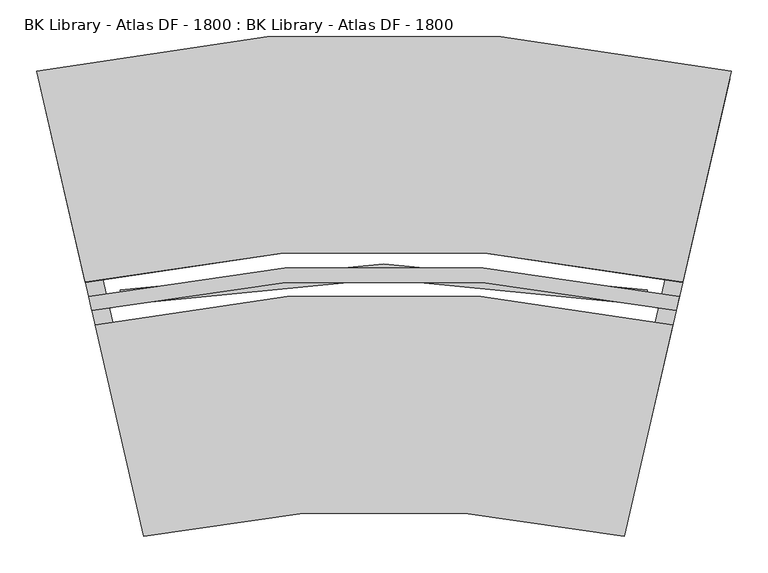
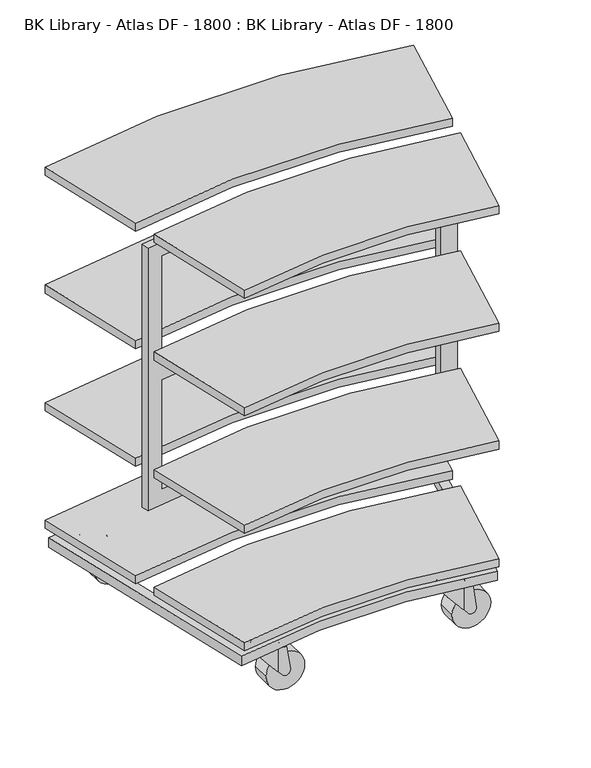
"""IFC4 building model written with IfcOpenShell, lengths in millimetres: furniture geometry, BK Library - Atlas DF - 1800 : BK Library - Atlas DF - 1800."""

from ifc_helpers import new_model, si_unit, point, frame, frame_2d, origin, place, context, project, spatial, polyline, circle_curve, ellipse_curve, trimmed, segment, composite_curve, outline, extrude, source, transform, mapped, element, save
from ifc_brep_helpers import plane_surface, cylinder_surface, revolved_surface, advanced_brep


def bk_library_atlas_df_1800_bk_library_atlas_df_1800_94cf6b04(model_context):
    return source(origin(), model_context, "Body", "SolidModel", [
        advanced_brep(
        [(-272.2019507, -254.1984705, 121.6226045), (-207.2197258, -254.1984705, 121.6226045), (-207.2197258, -254.1984705, 116.3900038), (-219.4802832, -228.7741311, 116.3900038), (-219.4802832, -228.7741311, 54.5515736), (-269.4995427, -241.2252106, 113.1446696), (-272.2019507, -254.1984705, 113.1446696), (-207.2197258, -254.1984705, 113.8999998), (-207.2197258, -254.1984705, 44.4908375), (-210.891719, -239.1941127, 44.4908375), (-216.827675, -231.132625, 51.4442799), (-216.827675, -231.132625, 113.8999998), (-216.921762, -277.3572785, 113.8999998), (-216.921762, -277.3572785, 51.5544945), (-210.891719, -269.2028283, 44.4908375), (-269.4995427, -267.1717304, 113.1446696), (-219.5976662, -279.7157724, 54.6890773), (-219.5976662, -279.7157724, 116.3900038), (-210.891719, -254.1984705, 44.4908375), (-214.2197258, -254.1984705, 128.6226045), (-265.2019507, -254.1984705, 128.6226045), (-239.7108382, -254.1984705, 128.6226045), (-208.6289168, -279.7157724, 41.8401668), (-188.2600466, -279.7157724, 51.0748876), (-197.7770665, -279.7157724, 116.3900038), (-197.7770665, -228.7741311, 116.3900038), (-188.2600466, -228.7741311, 51.0748876), (-208.6289168, -228.7741311, 41.8401668), (-208.6289168, -277.3572785, 41.8401668), (-208.6289168, -231.132625, 41.8401668), (-188.2600466, -277.3572785, 51.0748876), (-188.2600466, -231.132625, 51.0748876), (-197.4142497, -277.3572785, 113.8999998), (-197.4142497, -231.132625, 113.8999998)],
        [
            (0, 1, circle_curve(frame((-239.7108382, -254.1984705, 121.6226045), z_axis=(0.0, 0.0, -1.0), x_axis=(-1.0, 0.0, 0.0)), 32.4911124)),
            (1, 2),
            (2, 3, circle_curve(frame((-239.7108382, -254.1984705, 116.3900038), z_axis=(0.0, 0.0, 1.0), x_axis=(-1.0, 0.0, 0.0)), 32.4911124)),
            (3, 4),
            (4, 5, ellipse_curve(frame((-239.7108382, -254.1984705, 78.2498623), z_axis=(0.7605596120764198, 0.0, 0.6492681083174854), x_axis=(0.6492681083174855, 0.0, -0.7605596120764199)), 50.0426742, 32.4911124)),
            (5, 6, circle_curve(frame((-239.7108382, -254.1984705, 113.1446696), z_axis=(0.0, 0.0, 1.0), x_axis=(-1.0, 0.0, 0.0)), 32.4911124)),
            (6, 0),
            (7, 8),
            (8, 9, circle_curve(frame((-239.7108382, -254.1984705, 44.4908375), z_axis=(0.0, 0.0, 1.0), x_axis=(-1.0, 0.0, 0.0)), 32.4911124)),
            (9, 10, ellipse_curve(frame((-239.7108382, -254.1984705, 78.2498623), z_axis=(0.7605596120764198, 0.0, 0.6492681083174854), x_axis=(0.6492681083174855, 0.0, -0.7605596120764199)), 50.0426742, 32.4911124)),
            (10, 11),
            (11, 7, circle_curve(frame((-239.7108382, -254.1984705, 113.8999998), z_axis=(0.0, 0.0, -1.0), x_axis=(-1.0, 0.0, 0.0)), 32.4911124)),
            (7, 12, circle_curve(frame((-239.7108382, -254.1984705, 113.8999998), z_axis=(0.0, 0.0, -1.0), x_axis=(-1.0, 0.0, 0.0)), 32.4911124)),
            (12, 13),
            (13, 14, ellipse_curve(frame((-239.7108382, -254.1984705, 78.2498623), z_axis=(0.7605596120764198, 0.0, 0.6492681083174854), x_axis=(0.6492681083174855, 0.0, -0.7605596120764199)), 50.0426742, 32.4911124)),
            (14, 8, circle_curve(frame((-239.7108382, -254.1984705, 44.4908375), z_axis=(0.0, 0.0, 1.0), x_axis=(-1.0, 0.0, 0.0)), 32.4911124)),
            (1, 0, circle_curve(frame((-239.7108382, -254.1984705, 121.6226045), z_axis=(0.0, 0.0, -1.0), x_axis=(-1.0, 0.0, 0.0)), 32.4911124)),
            (6, 15, circle_curve(frame((-239.7108382, -254.1984705, 113.1446696), z_axis=(0.0, 0.0, 1.0), x_axis=(-1.0, 0.0, 0.0)), 32.4911124)),
            (15, 16, ellipse_curve(frame((-239.7108382, -254.1984705, 78.2498623), z_axis=(0.7605596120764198, 0.0, 0.6492681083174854), x_axis=(0.6492681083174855, 0.0, -0.7605596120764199)), 50.0426742, 32.4911124)),
            (16, 17),
            (17, 2, circle_curve(frame((-239.7108382, -254.1984705, 116.3900038), z_axis=(0.0, 0.0, 1.0), x_axis=(-1.0, 0.0, 0.0)), 32.4911124)),
            (8, 18),
            (18, 9),
            (14, 18),
            (19, 20, circle_curve(frame((-239.7108382, -254.1984705, 128.6226045), z_axis=(0.0, 0.0, 1.0), x_axis=(-1.0, 0.0, 0.0)), 25.4911124)),
            (20, 21),
            (21, 19),
            (20, 19, circle_curve(frame((-239.7108382, -254.1984705, 128.6226045), z_axis=(0.0, 0.0, 1.0), x_axis=(-1.0, 0.0, 0.0)), 25.4911124)),
            (0, 20, circle_curve(frame((-265.2019507, -254.1984705, 121.6226045), z_axis=(0.0, 1.0, 0.0), x_axis=(1.0, 0.0, 0.0)), 7.0)),
            (19, 1, circle_curve(frame((-214.2197258, -254.1984705, 121.6226045), z_axis=(0.0, 1.0, 0.0), x_axis=(-1.0, 0.0, 0.0)), 7.0)),
            (5, 15),
            (22, 23, circle_curve(frame((-199.7770509, -279.7157724, 49.3967529), z_axis=(0.0, -1.0, 0.0), x_axis=(1.0, 0.0, 0.0)), 11.6386221)),
            (23, 24),
            (24, 17),
            (16, 22),
            (25, 26),
            (26, 27, circle_curve(frame((-199.7770509, -228.7741311, 49.3967529), z_axis=(0.0, 1.0, 0.0), x_axis=(1.0, 0.0, 0.0)), 11.6386221)),
            (27, 4),
            (3, 25),
            (24, 25),
            (28, 22),
            (27, 29),
            (29, 10),
            (13, 28),
            (28, 30, circle_curve(frame((-199.7770509, -277.3572785, 49.3967529), z_axis=(0.0, -1.0, 0.0), x_axis=(1.0, 0.0, 0.0)), 11.6386221)),
            (30, 23),
            (26, 31),
            (31, 29, circle_curve(frame((-199.7770509, -231.132625, 49.3967529), z_axis=(0.0, 1.0, 0.0), x_axis=(1.0, 0.0, 0.0)), 11.6386221)),
            (30, 32),
            (32, 33),
            (33, 31),
            (12, 32),
            (11, 33),
        ],
        [
            cylinder_surface(frame((-239.7108382, -254.1984705, 133.8335618), z_axis=(0.0, 0.0, -1.0), x_axis=(-1.0, 0.0, 0.0)), 32.4911124),
            plane_surface(frame((-239.7108382, -254.1984705, 44.4908375), z_axis=(0.0, 0.0, -1.0), x_axis=(-1.0, 0.0, 0.0))),
            plane_surface(frame((-239.7108382, -254.1984705, 128.6226045), z_axis=(0.0, 0.0, 1.0), x_axis=(-1.0, 0.0, 0.0))),
            revolved_surface(trimmed(ellipse_curve(frame((-265.2019507, -254.1984705, 121.6226045), z_axis=(0.0, -1.0, 0.0), x_axis=(1.0, 0.0, 0.0)), 7.0, 7.0), [point((-265.2019507, -254.1984705, 128.6226045))], [point((-272.2019507, -254.1984705, 121.6226045))], True, "CARTESIAN"), (-239.7108382, -254.1984705, 133.8335618), (0.0, 0.0, -1.0)),
            plane_surface(frame((-269.4995427, -336.7007141, 113.1446696), z_axis=(0.0, 0.0, -1.0), x_axis=(0.0, 1.0, 0.0))),
            plane_surface(frame((-197.7770665, -279.7157724, 116.3900038), z_axis=(0.0, -1.0, 0.0), x_axis=(-1.0, 0.0, 0.0))),
            plane_surface(frame((-197.7770665, -228.7741311, 116.3900038), z_axis=(0.0, 1.0, 0.0), x_axis=(1.0, 0.0, 0.0))),
            plane_surface(frame((-197.7770665, -279.7157724, 116.3900038), z_axis=(0.0, 0.0, 1.0), x_axis=(0.0, 1.0, 0.0))),
            plane_surface(frame((-242.7770665, -279.7157724, 81.8416749), z_axis=(-0.7605596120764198, 0.0, -0.6492681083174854), x_axis=(0.0, 1.0, 0.0))),
            cylinder_surface(frame((-199.7770509, -228.7741311, 49.3967529), z_axis=(0.0, -1.0, 0.0), x_axis=(1.0, 0.0, 0.0)), 11.6386221),
            plane_surface(frame((-188.2600466, -279.7157724, 51.0748876), z_axis=(0.9895505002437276, 0.0, 0.14418671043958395), x_axis=(0.0, 1.0, 0.0))),
            plane_surface(frame((-174.1827597, -277.3572785, 113.8999998), z_axis=(0.0, 1.0, 0.0), x_axis=(-1.0, 0.0, 0.0))),
            plane_surface(frame((-174.1827597, -231.132625, 113.8999998), z_axis=(0.0, 0.0, -1.0), x_axis=(-1.0, 0.0, 0.0))),
            plane_surface(frame((-174.1827597, -231.132625, 11.6999998), z_axis=(0.0, -1.0, 0.0), x_axis=(-1.0, 0.0, 0.0))),
        ],
        [
            (0, [[1, 2, 3, 4, 5, 6, 7]]),
            (0, [[8, 9, 10, 11, 12]]),
            (0, [[-8, 13, 14, 15, 16]]),
            (0, [[17, -7, 18, 19, 20, 21, -2]]),
            (1, [[-9, 22, 23]]),
            (1, [[-22, -16, 24]]),
            (2, [[25, 26, 27]]),
            (2, [[-26, 28, -27]]),
            (3, [[-1, 29, -25, 30]]),
            (3, [[-17, -30, -28, -29]]),
            (4, [[31, -18, -6]]),
            (5, [[32, 33, 34, -20, 35]]),
            (6, [[36, 37, 38, -4, 39]]),
            (7, [[40, -39, -3, -21, -34]]),
            (8, [[41, -35, -19, -31, -5, -38, 42, 43, -10, -23, -24, -15, 44]]),
            (9, [[-32, -41, 45, 46]]),
            (9, [[-37, 47, 48, -42]]),
            (10, [[-33, -46, 49, 50, 51, -47, -36, -40]]),
            (11, [[-45, -44, -14, 52, -49]]),
            (12, [[-50, -52, -13, -12, 53]]),
            (13, [[-48, -51, -53, -11, -43]]),
        ],
    ),
        extrude(outline(composite_curve([segment(trimmed(circle_curve(frame_2d((-239.7108382, -254.2293883)), 10.0), [point((-249.7108382, -254.2293883))], [point((-229.7108382, -254.2293883))], False, "CARTESIAN"), True, "CONTINUOUS"), segment(trimmed(circle_curve(frame_2d((-239.7108382, -254.2293883)), 10.0), [point((-229.7108382, -254.2293883))], [point((-249.7108382, -254.2293883))], False, "CARTESIAN"), True, "CONTINUOUS")], self_intersect=False)), frame((0.0, 0.0, 126.1999998), z_axis=(0.0, 0.0, 1.0), x_axis=(1.0, 0.0, 0.0)), (0.0, 0.0, 1.0), 24.8998986),
        extrude(outline(composite_curve([segment(trimmed(circle_curve(frame_2d((49.3999998, -199.6952762)), 50.0), [point((49.3999998, -249.6952762))], [point((49.3999998, -149.6952762))], False, "CARTESIAN"), True, "CONTINUOUS"), segment(trimmed(circle_curve(frame_2d((49.3999998, -199.6952762)), 50.0), [point((49.3999998, -149.6952762))], [point((49.3999998, -249.6952762))], False, "CARTESIAN"), True, "CONTINUOUS")], self_intersect=False)), frame((0.0, -277.3572785, 0.0), z_axis=(0.0, 1.0, 0.0), x_axis=(0.0, 0.0, 1.0)), (0.0, 0.0, 1.0), 46.2857127),
        advanced_brep(
        [(209.7505812, -241.350678, 113.1446696), (209.7505812, -267.2971978, 113.1446696), (207.0481733, -254.3239379, 113.1446696), (270.6212072, -279.8412398, 41.8401668), (290.9900774, -279.8412398, 51.0748876), (281.4730575, -279.8412398, 116.3900038), (259.6524577, -279.8412398, 116.3900038), (259.6524577, -279.8412398, 54.6890773), (281.4730575, -228.8995985, 116.3900038), (290.9900774, -228.8995985, 51.0748876), (270.6212072, -228.8995985, 41.8401668), (259.7698407, -228.8995985, 54.5515736), (259.7698407, -228.8995985, 116.3900038), (272.0303981, -254.3239379, 116.3900038), (270.6212072, -277.4827459, 41.8401668), (270.6212072, -231.2580924, 41.8401668), (262.422449, -231.2580924, 51.4442799), (268.358405, -239.3195801, 44.4908375), (268.358405, -254.3239379, 44.4908375), (268.358405, -269.3282957, 44.4908375), (262.328362, -277.4827459, 51.5544945), (290.9900774, -277.4827459, 51.0748876), (290.9900774, -231.2580924, 51.0748876), (281.8358742, -277.4827459, 113.8999998), (281.8358742, -231.2580924, 113.8999998), (262.328362, -277.4827459, 113.8999998), (272.0303981, -254.3239379, 113.8999998), (262.422449, -231.2580924, 113.8999998), (207.0481733, -254.3239379, 121.6226045), (272.0303981, -254.3239379, 121.6226045), (272.0303981, -254.3239379, 44.4908375), (265.0303981, -254.3239379, 128.6226045), (214.0481733, -254.3239379, 128.6226045), (239.5392857, -254.3239379, 128.6226045)],
        [
            (0, 1),
            (1, 2, circle_curve(frame((239.5392857, -254.3239379, 113.1446696), z_axis=(0.0, 0.0, -1.0), x_axis=(-1.0, 0.0, 0.0)), 32.4911124)),
            (2, 0, circle_curve(frame((239.5392857, -254.3239379, 113.1446696), z_axis=(0.0, 0.0, -1.0), x_axis=(-1.0, 0.0, 0.0)), 32.4911124)),
            (3, 4, circle_curve(frame((279.4730731, -279.8412398, 49.3967529), z_axis=(0.0, -1.0, 0.0), x_axis=(1.0, 0.0, 0.0)), 11.6386221)),
            (4, 5),
            (5, 6),
            (6, 7),
            (7, 3),
            (8, 9),
            (9, 10, circle_curve(frame((279.4730731, -228.8995985, 49.3967529), z_axis=(0.0, 1.0, 0.0), x_axis=(1.0, 0.0, 0.0)), 11.6386221)),
            (10, 11),
            (11, 12),
            (12, 8),
            (5, 8),
            (12, 13, circle_curve(frame((239.5392857, -254.3239379, 116.3900038), z_axis=(0.0, 0.0, -1.0), x_axis=(-1.0, 0.0, 0.0)), 32.4911124)),
            (13, 6, circle_curve(frame((239.5392857, -254.3239379, 116.3900038), z_axis=(0.0, 0.0, -1.0), x_axis=(-1.0, 0.0, 0.0)), 32.4911124)),
            (14, 3),
            (7, 1, ellipse_curve(frame((239.5392857, -254.3239379, 78.2498623), z_axis=(-0.7605596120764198, 0.0, -0.6492681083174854), x_axis=(0.6492681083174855, 0.0, -0.7605596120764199)), 50.0426742, 32.4911124)),
            (0, 11, ellipse_curve(frame((239.5392857, -254.3239379, 78.2498623), z_axis=(-0.7605596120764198, 0.0, -0.6492681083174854), x_axis=(0.6492681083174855, 0.0, -0.7605596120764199)), 50.0426742, 32.4911124)),
            (10, 15),
            (15, 16),
            (16, 17, ellipse_curve(frame((239.5392857, -254.3239379, 78.2498623), z_axis=(-0.7605596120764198, 0.0, -0.6492681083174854), x_axis=(0.6492681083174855, 0.0, -0.7605596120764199)), 50.0426742, 32.4911124)),
            (17, 18),
            (18, 19),
            (19, 20, ellipse_curve(frame((239.5392857, -254.3239379, 78.2498623), z_axis=(-0.7605596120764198, 0.0, -0.6492681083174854), x_axis=(0.6492681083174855, 0.0, -0.7605596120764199)), 50.0426742, 32.4911124)),
            (20, 14),
            (14, 21, circle_curve(frame((279.4730731, -277.4827459, 49.3967529), z_axis=(0.0, -1.0, 0.0), x_axis=(1.0, 0.0, 0.0)), 11.6386221)),
            (21, 4),
            (9, 22),
            (22, 15, circle_curve(frame((279.4730731, -231.2580924, 49.3967529), z_axis=(0.0, 1.0, 0.0), x_axis=(1.0, 0.0, 0.0)), 11.6386221)),
            (21, 23),
            (23, 24),
            (24, 22),
            (20, 25),
            (25, 23),
            (25, 26, circle_curve(frame((239.5392857, -254.3239379, 113.8999998), z_axis=(0.0, 0.0, 1.0), x_axis=(-1.0, 0.0, 0.0)), 32.4911124)),
            (26, 27, circle_curve(frame((239.5392857, -254.3239379, 113.8999998), z_axis=(0.0, 0.0, 1.0), x_axis=(-1.0, 0.0, 0.0)), 32.4911124)),
            (27, 24),
            (27, 16),
            (28, 29, circle_curve(frame((239.5392857, -254.3239379, 121.6226045), z_axis=(0.0, 0.0, -1.0), x_axis=(-1.0, 0.0, 0.0)), 32.4911124)),
            (29, 13),
            (2, 28),
            (26, 30),
            (30, 17, circle_curve(frame((239.5392857, -254.3239379, 44.4908375), z_axis=(0.0, 0.0, 1.0), x_axis=(-1.0, 0.0, 0.0)), 32.4911124)),
            (19, 30, circle_curve(frame((239.5392857, -254.3239379, 44.4908375), z_axis=(0.0, 0.0, 1.0), x_axis=(-1.0, 0.0, 0.0)), 32.4911124)),
            (29, 28, circle_curve(frame((239.5392857, -254.3239379, 121.6226045), z_axis=(0.0, 0.0, -1.0), x_axis=(-1.0, 0.0, 0.0)), 32.4911124)),
            (30, 18),
            (31, 32, circle_curve(frame((239.5392857, -254.3239379, 128.6226045), z_axis=(0.0, 0.0, 1.0), x_axis=(-1.0, 0.0, 0.0)), 25.4911124)),
            (32, 33),
            (33, 31),
            (32, 31, circle_curve(frame((239.5392857, -254.3239379, 128.6226045), z_axis=(0.0, 0.0, 1.0), x_axis=(-1.0, 0.0, 0.0)), 25.4911124)),
            (28, 32, circle_curve(frame((214.0481733, -254.3239379, 121.6226045), z_axis=(0.0, 1.0, 0.0), x_axis=(1.0, 0.0, 0.0)), 7.0)),
            (31, 29, circle_curve(frame((265.0303981, -254.3239379, 121.6226045), z_axis=(0.0, 1.0, 0.0), x_axis=(-1.0, 0.0, 0.0)), 7.0)),
        ],
        [
            plane_surface(frame((209.7505812, -336.8261814, 113.1446696), z_axis=(0.0, 0.0, -1.0), x_axis=(0.0, 1.0, 0.0))),
            plane_surface(frame((281.4730575, -279.8412398, 116.3900038), z_axis=(0.0, -1.0, 0.0), x_axis=(-1.0, 0.0, 0.0))),
            plane_surface(frame((281.4730575, -228.8995985, 116.3900038), z_axis=(0.0, 1.0, 0.0), x_axis=(1.0, 0.0, 0.0))),
            plane_surface(frame((281.4730575, -279.8412398, 116.3900038), z_axis=(0.0, 0.0, 1.0), x_axis=(0.0, 1.0, 0.0))),
            plane_surface(frame((236.4730575, -279.8412398, 81.8416749), z_axis=(-0.7605596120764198, 0.0, -0.6492681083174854), x_axis=(0.0, 1.0, 0.0))),
            cylinder_surface(frame((279.4730731, -228.8995985, 49.3967529), z_axis=(0.0, -1.0, 0.0), x_axis=(1.0, 0.0, 0.0)), 11.6386221),
            plane_surface(frame((290.9900774, -279.8412398, 51.0748876), z_axis=(0.9895505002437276, 0.0, 0.14418671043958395), x_axis=(0.0, 1.0, 0.0))),
            plane_surface(frame((305.0673642, -277.4827459, 113.8999998), z_axis=(0.0, 1.0, 0.0), x_axis=(-1.0, 0.0, 0.0))),
            plane_surface(frame((305.0673642, -231.2580924, 113.8999998), z_axis=(0.0, 0.0, -1.0), x_axis=(-1.0, 0.0, 0.0))),
            plane_surface(frame((305.0673642, -231.2580924, 11.6999998), z_axis=(0.0, -1.0, 0.0), x_axis=(-1.0, 0.0, 0.0))),
            cylinder_surface(frame((239.5392857, -254.3239379, 133.8335618), z_axis=(0.0, 0.0, -1.0), x_axis=(-1.0, 0.0, 0.0)), 32.4911124),
            plane_surface(frame((239.5392857, -254.3239379, 44.4908375), z_axis=(0.0, 0.0, -1.0), x_axis=(-1.0, 0.0, 0.0))),
            plane_surface(frame((239.5392857, -254.3239379, 128.6226045), z_axis=(0.0, 0.0, 1.0), x_axis=(-1.0, 0.0, 0.0))),
            revolved_surface(trimmed(ellipse_curve(frame((214.0481733, -254.3239379, 121.6226045), z_axis=(0.0, -1.0, 0.0), x_axis=(1.0, 0.0, 0.0)), 7.0, 7.0), [point((214.0481733, -254.3239379, 128.6226045))], [point((207.0481733, -254.3239379, 121.6226045))], True, "CARTESIAN"), (239.5392857, -254.3239379, 133.8335618), (0.0, 0.0, -1.0)),
        ],
        [
            (0, [[1, 2, 3]]),
            (1, [[4, 5, 6, 7, 8]]),
            (2, [[9, 10, 11, 12, 13]]),
            (3, [[14, -13, 15, 16, -6]]),
            (4, [[17, -8, 18, -1, 19, -11, 20, 21, 22, 23, 24, 25, 26]]),
            (5, [[-4, -17, 27, 28]]),
            (5, [[-10, 29, 30, -20]]),
            (6, [[-5, -28, 31, 32, 33, -29, -9, -14]]),
            (7, [[-27, -26, 34, 35, -31]]),
            (8, [[-32, -35, 36, 37, 38]]),
            (9, [[-30, -33, -38, 39, -21]]),
            (10, [[40, 41, -15, -12, -19, -3, 42]]),
            (10, [[43, 44, -22, -39, -37]]),
            (10, [[-43, -36, -34, -25, 45]]),
            (10, [[46, -42, -2, -18, -7, -16, -41]]),
            (11, [[-44, 47, -23]]),
            (11, [[-47, -45, -24]]),
            (12, [[48, 49, 50]]),
            (12, [[-49, 51, -50]]),
            (13, [[-40, 52, -48, 53]]),
            (13, [[-46, -53, -51, -52]]),
        ],
    ),
        extrude(outline(composite_curve([segment(trimmed(circle_curve(frame_2d((49.3999998, 279.5548478)), 50.0), [point((49.3999998, 229.5548478))], [point((49.3999998, 329.5548478))], False, "CARTESIAN"), True, "CONTINUOUS"), segment(trimmed(circle_curve(frame_2d((49.3999998, 279.5548478)), 50.0), [point((49.3999998, 329.5548478))], [point((49.3999998, 229.5548478))], False, "CARTESIAN"), True, "CONTINUOUS")], self_intersect=False)), frame((0.0, -277.4827459, 0.0), z_axis=(0.0, 1.0, 0.0), x_axis=(0.0, 0.0, 1.0)), (0.0, 0.0, 1.0), 46.2857127),
        extrude(outline(composite_curve([segment(trimmed(circle_curve(frame_2d((239.5392857, -254.3548557)), 10.0), [point((229.5392857, -254.3548557))], [point((249.5392857, -254.3548557))], False, "CARTESIAN"), True, "CONTINUOUS"), segment(trimmed(circle_curve(frame_2d((239.5392857, -254.3548557)), 10.0), [point((249.5392857, -254.3548557))], [point((229.5392857, -254.3548557))], False, "CARTESIAN"), True, "CONTINUOUS")], self_intersect=False)), frame((0.0, 0.0, 126.1999998), z_axis=(0.0, 0.0, 1.0), x_axis=(1.0, 0.0, 0.0)), (0.0, 0.0, 1.0), 24.8998986),
        advanced_brep(
        [(336.1023802, 305.2827462, 113.1446696), (336.1023802, 279.3362264, 113.1446696), (333.3999722, 292.3094863, 113.1446696), (396.9730061, 266.7921844, 41.8401668), (417.3418763, 266.7921844, 51.0748876), (407.8248565, 266.7921844, 116.3900038), (386.0042567, 266.7921844, 116.3900038), (386.0042567, 266.7921844, 54.6890773), (407.8248565, 317.7338257, 116.3900038), (417.3418763, 317.7338257, 51.0748876), (396.9730061, 317.7338257, 41.8401668), (386.1216397, 317.7338257, 54.5515736), (386.1216397, 317.7338257, 116.3900038), (398.3821971, 292.3094863, 116.3900038), (396.9730061, 269.1506783, 41.8401668), (396.9730061, 315.3753318, 41.8401668), (388.7742479, 315.3753318, 51.4442799), (394.7102039, 307.3138441, 44.4908375), (394.7102039, 292.3094863, 44.4908375), (394.7102039, 277.3051285, 44.4908375), (388.6801609, 269.1506783, 51.5544945), (417.3418763, 269.1506783, 51.0748876), (417.3418763, 315.3753318, 51.0748876), (408.1876732, 269.1506783, 113.8999998), (408.1876732, 315.3753318, 113.8999998), (388.6801609, 269.1506783, 113.8999998), (398.3821971, 292.3094863, 113.8999998), (388.7742479, 315.3753318, 113.8999998), (333.3999722, 292.3094863, 121.6226045), (398.3821971, 292.3094863, 121.6226045), (398.3821971, 292.3094863, 44.4908375), (391.3821971, 292.3094863, 128.6226045), (340.3999722, 292.3094863, 128.6226045), (365.8910847, 292.3094863, 128.6226045)],
        [
            (0, 1),
            (1, 2, circle_curve(frame((365.8910847, 292.3094863, 113.1446696), z_axis=(0.0, 0.0, -1.0), x_axis=(-1.0, 0.0, 0.0)), 32.4911124)),
            (2, 0, circle_curve(frame((365.8910847, 292.3094863, 113.1446696), z_axis=(0.0, 0.0, -1.0), x_axis=(-1.0, 0.0, 0.0)), 32.4911124)),
            (3, 4, circle_curve(frame((405.824872, 266.7921844, 49.3967529), z_axis=(0.0, -1.0, 0.0), x_axis=(1.0, 0.0, 0.0)), 11.6386221)),
            (4, 5),
            (5, 6),
            (6, 7),
            (7, 3),
            (8, 9),
            (9, 10, circle_curve(frame((405.824872, 317.7338257, 49.3967529), z_axis=(0.0, 1.0, 0.0), x_axis=(1.0, 0.0, 0.0)), 11.6386221)),
            (10, 11),
            (11, 12),
            (12, 8),
            (5, 8),
            (12, 13, circle_curve(frame((365.8910847, 292.3094863, 116.3900038), z_axis=(0.0, 0.0, -1.0), x_axis=(-1.0, 0.0, 0.0)), 32.4911124)),
            (13, 6, circle_curve(frame((365.8910847, 292.3094863, 116.3900038), z_axis=(0.0, 0.0, -1.0), x_axis=(-1.0, 0.0, 0.0)), 32.4911124)),
            (14, 3),
            (7, 1, ellipse_curve(frame((365.8910847, 292.3094863, 78.2498623), z_axis=(-0.76055961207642, 0.0, -0.649268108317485), x_axis=(0.649268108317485, 0.0, -0.76055961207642)), 50.0426742, 32.4911124)),
            (0, 11, ellipse_curve(frame((365.8910847, 292.3094863, 78.2498623), z_axis=(-0.76055961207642, 0.0, -0.649268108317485), x_axis=(0.649268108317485, 0.0, -0.76055961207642)), 50.0426742, 32.4911124)),
            (10, 15),
            (15, 16),
            (16, 17, ellipse_curve(frame((365.8910847, 292.3094863, 78.2498623), z_axis=(-0.76055961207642, 0.0, -0.649268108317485), x_axis=(0.649268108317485, 0.0, -0.76055961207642)), 50.0426742, 32.4911124)),
            (17, 18),
            (18, 19),
            (19, 20, ellipse_curve(frame((365.8910847, 292.3094863, 78.2498623), z_axis=(-0.76055961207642, 0.0, -0.649268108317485), x_axis=(0.649268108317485, 0.0, -0.76055961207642)), 50.0426742, 32.4911124)),
            (20, 14),
            (14, 21, circle_curve(frame((405.824872, 269.1506783, 49.3967529), z_axis=(0.0, -1.0, 0.0), x_axis=(1.0, 0.0, 0.0)), 11.6386221)),
            (21, 4),
            (9, 22),
            (22, 15, circle_curve(frame((405.824872, 315.3753318, 49.3967529), z_axis=(0.0, 1.0, 0.0), x_axis=(1.0, 0.0, 0.0)), 11.6386221)),
            (21, 23),
            (23, 24),
            (24, 22),
            (20, 25),
            (25, 23),
            (25, 26, circle_curve(frame((365.8910847, 292.3094863, 113.8999998), z_axis=(0.0, 0.0, 1.0), x_axis=(-1.0, 0.0, 0.0)), 32.4911124)),
            (26, 27, circle_curve(frame((365.8910847, 292.3094863, 113.8999998), z_axis=(0.0, 0.0, 1.0), x_axis=(-1.0, 0.0, 0.0)), 32.4911124)),
            (27, 24),
            (27, 16),
            (28, 29, circle_curve(frame((365.8910847, 292.3094863, 121.6226045), z_axis=(0.0, 0.0, -1.0), x_axis=(-1.0, 0.0, 0.0)), 32.4911124)),
            (29, 13),
            (2, 28),
            (26, 30),
            (30, 17, circle_curve(frame((365.8910847, 292.3094863, 44.4908375), z_axis=(0.0, 0.0, 1.0), x_axis=(-1.0, 0.0, 0.0)), 32.4911124)),
            (19, 30, circle_curve(frame((365.8910847, 292.3094863, 44.4908375), z_axis=(0.0, 0.0, 1.0), x_axis=(-1.0, 0.0, 0.0)), 32.4911124)),
            (29, 28, circle_curve(frame((365.8910847, 292.3094863, 121.6226045), z_axis=(0.0, 0.0, -1.0), x_axis=(-1.0, 0.0, 0.0)), 32.4911124)),
            (30, 18),
            (31, 32, circle_curve(frame((365.8910847, 292.3094863, 128.6226045), z_axis=(0.0, 0.0, 1.0), x_axis=(-1.0, 0.0, 0.0)), 25.4911124)),
            (32, 33),
            (33, 31),
            (32, 31, circle_curve(frame((365.8910847, 292.3094863, 128.6226045), z_axis=(0.0, 0.0, 1.0), x_axis=(-1.0, 0.0, 0.0)), 25.4911124)),
            (28, 32, circle_curve(frame((340.3999722, 292.3094863, 121.6226045), z_axis=(0.0, 1.0, 0.0), x_axis=(1.0, 0.0, 0.0)), 7.0)),
            (31, 29, circle_curve(frame((391.3821971, 292.3094863, 121.6226045), z_axis=(0.0, 1.0, 0.0), x_axis=(-1.0, 0.0, 0.0)), 7.0)),
        ],
        [
            plane_surface(frame((336.1023802, 209.8072428, 113.1446696), z_axis=(0.0, 0.0, -1.0), x_axis=(0.0, 1.0, 0.0))),
            plane_surface(frame((407.8248565, 266.7921844, 116.3900038), z_axis=(0.0, -1.0, 0.0), x_axis=(-1.0, 0.0, 0.0))),
            plane_surface(frame((407.8248565, 317.7338257, 116.3900038), z_axis=(0.0, 1.0, 0.0), x_axis=(1.0, 0.0, 0.0))),
            plane_surface(frame((407.8248565, 266.7921844, 116.3900038), z_axis=(0.0, 0.0, 1.0), x_axis=(0.0, 1.0, 0.0))),
            plane_surface(frame((362.8248565, 266.7921844, 81.8416749), z_axis=(-0.76055961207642, 0.0, -0.649268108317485), x_axis=(0.0, 1.0, 0.0))),
            cylinder_surface(frame((405.824872, 317.7338257, 49.3967529), z_axis=(0.0, -1.0, 0.0), x_axis=(1.0, 0.0, 0.0)), 11.6386221),
            plane_surface(frame((417.3418763, 266.7921844, 51.0748876), z_axis=(0.9895505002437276, 0.0, 0.14418671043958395), x_axis=(0.0, 1.0, 0.0))),
            plane_surface(frame((431.4191632, 269.1506783, 113.8999998), z_axis=(0.0, 1.0, 0.0), x_axis=(-1.0, 0.0, 0.0))),
            plane_surface(frame((431.4191632, 315.3753318, 113.8999998), z_axis=(0.0, 0.0, -1.0), x_axis=(-1.0, 0.0, 0.0))),
            plane_surface(frame((431.4191632, 315.3753318, 11.6999998), z_axis=(0.0, -1.0, 0.0), x_axis=(-1.0, 0.0, 0.0))),
            cylinder_surface(frame((365.8910847, 292.3094863, 133.8335618), z_axis=(0.0, 0.0, -1.0), x_axis=(-1.0, 0.0, 0.0)), 32.4911124),
            plane_surface(frame((365.8910847, 292.3094863, 44.4908375), z_axis=(0.0, 0.0, -1.0), x_axis=(-1.0, 0.0, 0.0))),
            plane_surface(frame((365.8910847, 292.3094863, 128.6226045), z_axis=(0.0, 0.0, 1.0), x_axis=(-1.0, 0.0, 0.0))),
            revolved_surface(trimmed(ellipse_curve(frame((340.3999722, 292.3094863, 121.6226045), z_axis=(0.0, -1.0, 0.0), x_axis=(1.0, 0.0, 0.0)), 7.0, 7.0), [point((340.3999722, 292.3094863, 128.6226045))], [point((333.3999722, 292.3094863, 121.6226045))], True, "CARTESIAN"), (365.8910847, 292.3094863, 133.8335618), (0.0, 0.0, -1.0)),
        ],
        [
            (0, [[1, 2, 3]]),
            (1, [[4, 5, 6, 7, 8]]),
            (2, [[9, 10, 11, 12, 13]]),
            (3, [[14, -13, 15, 16, -6]]),
            (4, [[17, -8, 18, -1, 19, -11, 20, 21, 22, 23, 24, 25, 26]]),
            (5, [[-4, -17, 27, 28]]),
            (5, [[-10, 29, 30, -20]]),
            (6, [[-5, -28, 31, 32, 33, -29, -9, -14]]),
            (7, [[-27, -26, 34, 35, -31]]),
            (8, [[-32, -35, 36, 37, 38]]),
            (9, [[-30, -33, -38, 39, -21]]),
            (10, [[40, 41, -15, -12, -19, -3, 42]]),
            (10, [[43, 44, -22, -39, -37]]),
            (10, [[-43, -36, -34, -25, 45]]),
            (10, [[46, -42, -2, -18, -7, -16, -41]]),
            (11, [[-44, 47, -23]]),
            (11, [[-47, -45, -24]]),
            (12, [[48, 49, 50]]),
            (12, [[-49, 51, -50]]),
            (13, [[-40, 52, -48, 53]]),
            (13, [[-46, -53, -51, -52]]),
        ],
    ),
        extrude(outline(composite_curve([segment(trimmed(circle_curve(frame_2d((49.3999998, 405.9066468)), 50.0), [point((49.3999998, 355.9066468))], [point((49.3999998, 455.9066468))], False, "CARTESIAN"), True, "CONTINUOUS"), segment(trimmed(circle_curve(frame_2d((49.3999998, 405.9066468)), 50.0), [point((49.3999998, 455.9066468))], [point((49.3999998, 355.9066468))], False, "CARTESIAN"), True, "CONTINUOUS")], self_intersect=False)), frame((0.0, 269.1506783, 0.0), z_axis=(0.0, 1.0, 0.0), x_axis=(0.0, 0.0, 1.0)), (0.0, 0.0, 1.0), 46.2857127),
        extrude(outline(composite_curve([segment(trimmed(circle_curve(frame_2d((49.3999998, -325.7608412)), 50.0), [point((49.3999998, -375.7608412))], [point((49.3999998, -275.7608412))], False, "CARTESIAN"), True, "CONTINUOUS"), segment(trimmed(circle_curve(frame_2d((49.3999998, -325.7608412)), 50.0), [point((49.3999998, -275.7608412))], [point((49.3999998, -375.7608412))], False, "CARTESIAN"), True, "CONTINUOUS")], self_intersect=False)), frame((0.0, 269.3422284, 0.0), z_axis=(0.0, 1.0, 0.0), x_axis=(0.0, 0.0, 1.0)), (0.0, 0.0, 1.0), 46.2857127),
        extrude(outline(composite_curve([segment(trimmed(circle_curve(frame_2d((365.8910847, 292.2785685)), 10.0), [point((355.8910847, 292.2785685))], [point((375.8910847, 292.2785685))], False, "CARTESIAN"), True, "CONTINUOUS"), segment(trimmed(circle_curve(frame_2d((365.8910847, 292.2785685)), 10.0), [point((375.8910847, 292.2785685))], [point((355.8910847, 292.2785685))], False, "CARTESIAN"), True, "CONTINUOUS")], self_intersect=False)), frame((0.0, 0.0, 126.1999998), z_axis=(0.0, 0.0, 1.0), x_axis=(1.0, 0.0, 0.0)), (0.0, 0.0, 1.0), 24.8998986),
        advanced_brep(
        [(-334.6944819, 266.9837345, 41.8401668), (-314.3256117, 266.9837345, 51.0748876), (-323.8426315, 266.9837345, 116.3900038), (-345.6632313, 266.9837345, 116.3900038), (-345.6632313, 266.9837345, 54.6890773), (-323.8426315, 317.9253758, 116.3900038), (-314.3256117, 317.9253758, 51.0748876), (-334.6944819, 317.9253758, 41.8401668), (-345.5458483, 317.9253758, 54.5515736), (-345.5458483, 317.9253758, 116.3900038), (-333.2852909, 292.5010364, 116.3900038), (-334.6944819, 269.3422284, 41.8401668), (-395.5651078, 279.5277766, 113.1446696), (-395.5651078, 305.4742963, 113.1446696), (-334.6944819, 315.5668819, 41.8401668), (-342.89324, 315.5668819, 51.4442799), (-336.9572841, 307.5053942, 44.4908375), (-336.9572841, 292.5010364, 44.4908375), (-336.9572841, 277.4966786, 44.4908375), (-342.9873271, 269.3422284, 51.5544945), (-314.3256117, 269.3422284, 51.0748876), (-314.3256117, 315.5668819, 51.0748876), (-323.4798148, 269.3422284, 113.8999998), (-323.4798148, 315.5668819, 113.8999998), (-342.9873271, 269.3422284, 113.8999998), (-333.2852909, 292.5010364, 113.8999998), (-342.89324, 315.5668819, 113.8999998), (-398.2675157, 292.5010364, 121.6226045), (-333.2852909, 292.5010364, 121.6226045), (-398.2675157, 292.5010364, 113.1446696), (-333.2852909, 292.5010364, 44.4908375), (-340.2852909, 292.5010364, 128.6226045), (-391.2675157, 292.5010364, 128.6226045), (-365.7764033, 292.5010364, 128.6226045)],
        [
            (0, 1, circle_curve(frame((-325.842616, 266.9837345, 49.3967529), z_axis=(0.0, -1.0, 0.0), x_axis=(1.0, 0.0, 0.0)), 11.6386221)),
            (1, 2),
            (2, 3),
            (3, 4),
            (4, 0),
            (5, 6),
            (6, 7, circle_curve(frame((-325.842616, 317.9253758, 49.3967529), z_axis=(0.0, 1.0, 0.0), x_axis=(1.0, 0.0, 0.0)), 11.6386221)),
            (7, 8),
            (8, 9),
            (9, 5),
            (2, 5),
            (9, 10, circle_curve(frame((-365.7764033, 292.5010364, 116.3900038), z_axis=(0.0, 0.0, -1.0), x_axis=(-1.0, 0.0, 0.0)), 32.4911124)),
            (10, 3, circle_curve(frame((-365.7764033, 292.5010364, 116.3900038), z_axis=(0.0, 0.0, -1.0), x_axis=(-1.0, 0.0, 0.0)), 32.4911124)),
            (11, 0),
            (4, 12, ellipse_curve(frame((-365.7764033, 292.5010364, 78.2498623), z_axis=(-0.76055961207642, 0.0, -0.649268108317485), x_axis=(0.649268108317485, 0.0, -0.76055961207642)), 50.0426742, 32.4911124)),
            (12, 13),
            (13, 8, ellipse_curve(frame((-365.7764033, 292.5010364, 78.2498623), z_axis=(-0.76055961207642, 0.0, -0.649268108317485), x_axis=(0.649268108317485, 0.0, -0.76055961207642)), 50.0426742, 32.4911124)),
            (7, 14),
            (14, 15),
            (15, 16, ellipse_curve(frame((-365.7764033, 292.5010364, 78.2498623), z_axis=(-0.76055961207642, 0.0, -0.649268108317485), x_axis=(0.649268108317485, 0.0, -0.76055961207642)), 50.0426742, 32.4911124)),
            (16, 17),
            (17, 18),
            (18, 19, ellipse_curve(frame((-365.7764033, 292.5010364, 78.2498623), z_axis=(-0.76055961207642, 0.0, -0.649268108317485), x_axis=(0.649268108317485, 0.0, -0.76055961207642)), 50.0426742, 32.4911124)),
            (19, 11),
            (11, 20, circle_curve(frame((-325.842616, 269.3422284, 49.3967529), z_axis=(0.0, -1.0, 0.0), x_axis=(1.0, 0.0, 0.0)), 11.6386221)),
            (20, 1),
            (6, 21),
            (21, 14, circle_curve(frame((-325.842616, 315.5668819, 49.3967529), z_axis=(0.0, 1.0, 0.0), x_axis=(1.0, 0.0, 0.0)), 11.6386221)),
            (20, 22),
            (22, 23),
            (23, 21),
            (19, 24),
            (24, 22),
            (24, 25, circle_curve(frame((-365.7764033, 292.5010364, 113.8999998), z_axis=(0.0, 0.0, 1.0), x_axis=(-1.0, 0.0, 0.0)), 32.4911124)),
            (25, 26, circle_curve(frame((-365.7764033, 292.5010364, 113.8999998), z_axis=(0.0, 0.0, 1.0), x_axis=(-1.0, 0.0, 0.0)), 32.4911124)),
            (26, 23),
            (26, 15),
            (27, 28, circle_curve(frame((-365.7764033, 292.5010364, 121.6226045), z_axis=(0.0, 0.0, -1.0), x_axis=(-1.0, 0.0, 0.0)), 32.4911124)),
            (28, 10),
            (13, 29, circle_curve(frame((-365.7764033, 292.5010364, 113.1446696), z_axis=(0.0, 0.0, 1.0), x_axis=(-1.0, 0.0, 0.0)), 32.4911124)),
            (29, 27),
            (30, 16, circle_curve(frame((-365.7764033, 292.5010364, 44.4908375), z_axis=(0.0, 0.0, 1.0), x_axis=(-1.0, 0.0, 0.0)), 32.4911124)),
            (25, 30),
            (28, 27, circle_curve(frame((-365.7764033, 292.5010364, 121.6226045), z_axis=(0.0, 0.0, -1.0), x_axis=(-1.0, 0.0, 0.0)), 32.4911124)),
            (29, 12, circle_curve(frame((-365.7764033, 292.5010364, 113.1446696), z_axis=(0.0, 0.0, 1.0), x_axis=(-1.0, 0.0, 0.0)), 32.4911124)),
            (18, 30, circle_curve(frame((-365.7764033, 292.5010364, 44.4908375), z_axis=(0.0, 0.0, 1.0), x_axis=(-1.0, 0.0, 0.0)), 32.4911124)),
            (30, 17),
            (31, 32, circle_curve(frame((-365.7764033, 292.5010364, 128.6226045), z_axis=(0.0, 0.0, 1.0), x_axis=(-1.0, 0.0, 0.0)), 25.4911124)),
            (32, 33),
            (33, 31),
            (32, 31, circle_curve(frame((-365.7764033, 292.5010364, 128.6226045), z_axis=(0.0, 0.0, 1.0), x_axis=(-1.0, 0.0, 0.0)), 25.4911124)),
            (27, 32, circle_curve(frame((-391.2675157, 292.5010364, 121.6226045), z_axis=(0.0, 1.0, 0.0), x_axis=(1.0, 0.0, 0.0)), 7.0)),
            (31, 28, circle_curve(frame((-340.2852909, 292.5010364, 121.6226045), z_axis=(0.0, 1.0, 0.0), x_axis=(-1.0, 0.0, 0.0)), 7.0)),
        ],
        [
            plane_surface(frame((-323.8426315, 266.9837345, 116.3900038), z_axis=(0.0, -1.0, 0.0), x_axis=(-1.0, 0.0, 0.0))),
            plane_surface(frame((-323.8426315, 317.9253758, 116.3900038), z_axis=(0.0, 1.0, 0.0), x_axis=(1.0, 0.0, 0.0))),
            plane_surface(frame((-323.8426315, 266.9837345, 116.3900038), z_axis=(0.0, 0.0, 1.0), x_axis=(0.0, 1.0, 0.0))),
            plane_surface(frame((-368.8426315, 266.9837345, 81.8416749), z_axis=(-0.76055961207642, 0.0, -0.649268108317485), x_axis=(0.0, 1.0, 0.0))),
            cylinder_surface(frame((-325.842616, 317.9253758, 49.3967529), z_axis=(0.0, -1.0, 0.0), x_axis=(1.0, 0.0, 0.0)), 11.6386221),
            plane_surface(frame((-314.3256117, 266.9837345, 51.0748876), z_axis=(0.9895505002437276, 0.0, 0.14418671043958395), x_axis=(0.0, 1.0, 0.0))),
            plane_surface(frame((-300.2483248, 269.3422284, 113.8999998), z_axis=(0.0, 1.0, 0.0), x_axis=(-1.0, 0.0, 0.0))),
            plane_surface(frame((-300.2483248, 315.5668819, 113.8999998), z_axis=(0.0, 0.0, -1.0), x_axis=(-1.0, 0.0, 0.0))),
            plane_surface(frame((-300.2483248, 315.5668819, 11.6999998), z_axis=(0.0, -1.0, 0.0), x_axis=(-1.0, 0.0, 0.0))),
            cylinder_surface(frame((-365.7764033, 292.5010364, 133.8335618), z_axis=(0.0, 0.0, -1.0), x_axis=(-1.0, 0.0, 0.0)), 32.4911124),
            plane_surface(frame((-365.7764033, 292.5010364, 44.4908375), z_axis=(0.0, 0.0, -1.0), x_axis=(-1.0, 0.0, 0.0))),
            plane_surface(frame((-365.7764033, 292.5010364, 128.6226045), z_axis=(0.0, 0.0, 1.0), x_axis=(-1.0, 0.0, 0.0))),
            revolved_surface(trimmed(ellipse_curve(frame((-391.2675157, 292.5010364, 121.6226045), z_axis=(0.0, -1.0, 0.0), x_axis=(1.0, 0.0, 0.0)), 7.0, 7.0), [point((-391.2675157, 292.5010364, 128.6226045))], [point((-398.2675157, 292.5010364, 121.6226045))], True, "CARTESIAN"), (-365.7764033, 292.5010364, 133.8335618), (0.0, 0.0, -1.0)),
            plane_surface(frame((-395.5651078, 209.9987929, 113.1446696), z_axis=(0.0, 0.0, -1.0), x_axis=(0.0, 1.0, 0.0))),
        ],
        [
            (0, [[1, 2, 3, 4, 5]]),
            (1, [[6, 7, 8, 9, 10]]),
            (2, [[11, -10, 12, 13, -3]]),
            (3, [[14, -5, 15, 16, 17, -8, 18, 19, 20, 21, 22, 23, 24]]),
            (4, [[-1, -14, 25, 26]]),
            (4, [[-7, 27, 28, -18]]),
            (5, [[-2, -26, 29, 30, 31, -27, -6, -11]]),
            (6, [[-25, -24, 32, 33, -29]]),
            (7, [[-30, -33, 34, 35, 36]]),
            (8, [[-28, -31, -36, 37, -19]]),
            (9, [[38, 39, -12, -9, -17, 40, 41]]),
            (9, [[42, -20, -37, -35, 43]]),
            (9, [[44, -41, 45, -15, -4, -13, -39]]),
            (9, [[46, -43, -34, -32, -23]]),
            (10, [[-42, 47, -21]]),
            (10, [[-47, -46, -22]]),
            (11, [[48, 49, 50]]),
            (11, [[-49, 51, -50]]),
            (12, [[-38, 52, -48, 53]]),
            (12, [[-44, -53, -51, -52]]),
            (13, [[-16, -45, -40]]),
        ],
    ),
        extrude(outline(composite_curve([segment(trimmed(circle_curve(frame_2d((-365.7764033, 292.4701186)), 10.0), [point((-375.7764033, 292.4701186))], [point((-355.7764033, 292.4701186))], False, "CARTESIAN"), True, "CONTINUOUS"), segment(trimmed(circle_curve(frame_2d((-365.7764033, 292.4701186)), 10.0), [point((-355.7764033, 292.4701186))], [point((-375.7764033, 292.4701186))], False, "CARTESIAN"), True, "CONTINUOUS")], self_intersect=False)), frame((0.0, 0.0, 126.1999998), z_axis=(0.0, 0.0, 1.0), x_axis=(1.0, 0.0, 0.0)), (0.0, 0.0, 1.0), 24.8998986),
        extrude(outline(composite_curve([segment(trimmed(circle_curve(frame_2d((-0.1289567, -1789.54304)), 2148.52767), [point((-471.6391631, 306.6080219))], [point((471.6410197, 306.549572))], False, "CARTESIAN"), True, "CONTINUOUS"), segment(polyline([(471.6410197, 306.549572), (330.6052405, -305.0739935)]), True, "CONTINUOUS"), segment(trimmed(circle_curve(frame_2d((5.2928449, -1828.3638627)), 1557.6392973), [point((330.6052405, -305.0739935))], [point((-330.0861441, -307.2586348))], True, "CARTESIAN"), True, "CONTINUOUS"), segment(polyline([(-330.0861441, -307.2586348), (-471.6391631, 306.6080219)]), True, "CONTINUOUS")], self_intersect=False), holes=[composite_curve([segment(trimmed(circle_curve(frame_2d((0.0, -1803.8543755)), 1557.9492408), [point((-311.3398697, -277.3310961))], [point((311.3398697, -277.3310961))], False, "CARTESIAN"), True, "CONTINUOUS"), segment(polyline([(311.3398697, -277.3310961), (441.81755, 287.9820793)]), True, "CONTINUOUS"), segment(trimmed(circle_curve(frame_2d((0.0, -1860.8084472)), 2193.7418887), [point((441.81755, 287.9820793))], [point((-441.81755, 287.9820793))], True, "CARTESIAN"), True, "CONTINUOUS"), segment(polyline([(-441.81755, 287.9820793), (-311.3398697, -277.3310961)]), True, "CONTINUOUS")], self_intersect=False)]), frame((0.0, 0.0, 126.2197818), z_axis=(0.0, 0.0, 1.0), x_axis=(1.0, 0.0, 0.0)), (0.0, 0.0, 1.0), 24.8801166),
        advanced_brep(
        [(-403.1922937, 9.7442892, 1106.1999998), (-398.6983746, -9.7442892, 1106.1999998), (398.6983746, -9.7442892, 1106.1999998), (403.1922937, 9.7442892, 1106.1999998), (-403.1922937, 9.7442892, 391.1999998), (403.1922937, 9.7442892, 391.1999998), (398.6983746, -9.7442892, 391.1999998), (-398.6983746, -9.7442892, 391.1999998), (359.7000463, -1.6061954, 1066.1999998), (359.7000463, -1.6061954, 768.6999998), (-359.7212176, -1.6103769, 768.6999998), (-359.7212176, -1.6103769, 1066.1999998), (-359.7212176, -1.6103769, 728.6999998), (359.7000463, -1.6061954, 728.6999998), (359.7000463, -1.6061954, 431.1999998), (-359.7212176, -1.6103769, 431.1999998), (359.7000463, 18.8192746, 768.6999998), (359.7000463, 18.8192746, 1066.1999998), (-359.7212176, 18.8151191, 1066.1999998), (-359.7212176, 18.8151191, 768.6999998), (359.7000463, 18.8192746, 728.6999998), (-359.7212176, 18.8151191, 728.6999998), (-359.7212176, 18.8151191, 431.1999998), (359.7000463, 18.8192746, 431.1999998)],
        [
            (0, 1),
            (1, 2, circle_curve(frame((0.0, -1822.824997, 1106.1999998), z_axis=(0.0, 0.0, -1.0), x_axis=(1.0, 0.0, 0.0)), 1856.4002927)),
            (2, 3),
            (3, 0, circle_curve(frame((0.0, -1813.8149651, 1106.1999998), z_axis=(0.0, 0.0, 1.0), x_axis=(1.0, 0.0, 0.0)), 1867.6007014)),
            (4, 5, circle_curve(frame((0.0, -1813.8149651, 391.1999998), z_axis=(0.0, 0.0, -1.0), x_axis=(1.0, 0.0, 0.0)), 1867.6007014)),
            (5, 6),
            (6, 7, circle_curve(frame((0.0, -1822.824997, 391.1999998), z_axis=(0.0, 0.0, 1.0), x_axis=(1.0, 0.0, 0.0)), 1856.4002927)),
            (7, 4),
            (0, 4),
            (7, 1),
            (2, 6),
            (5, 3),
            (8, 9),
            (9, 10, circle_curve(frame((0.0, -1822.824997, 768.6999998), z_axis=(0.0, 0.0, 1.0), x_axis=(1.0, 0.0, 0.0)), 1856.4002927)),
            (10, 11),
            (11, 8, circle_curve(frame((0.0, -1822.824997, 1066.1999998), z_axis=(0.0, 0.0, -1.0), x_axis=(1.0, 0.0, 0.0)), 1856.4002927)),
            (12, 13, circle_curve(frame((0.0, -1822.824997, 728.6999998), z_axis=(0.0, 0.0, -1.0), x_axis=(1.0, 0.0, 0.0)), 1856.4002927)),
            (13, 14),
            (14, 15, circle_curve(frame((0.0, -1822.824997, 431.1999998), z_axis=(0.0, 0.0, 1.0), x_axis=(1.0, 0.0, 0.0)), 1856.4002927)),
            (15, 12),
            (16, 17),
            (17, 18, circle_curve(frame((0.0, -1813.8149651, 1066.1999998), z_axis=(0.0, 0.0, 1.0), x_axis=(1.0, 0.0, 0.0)), 1867.6007014)),
            (18, 19),
            (19, 16, circle_curve(frame((0.0, -1813.8149651, 768.6999998), z_axis=(0.0, 0.0, -1.0), x_axis=(1.0, 0.0, 0.0)), 1867.6007014)),
            (20, 21, circle_curve(frame((0.0, -1813.8149651, 728.6999998), z_axis=(0.0, 0.0, 1.0), x_axis=(1.0, 0.0, 0.0)), 1867.6007014)),
            (21, 22),
            (22, 23, circle_curve(frame((0.0, -1813.8149651, 431.1999998), z_axis=(0.0, 0.0, -1.0), x_axis=(1.0, 0.0, 0.0)), 1867.6007014)),
            (23, 20),
            (16, 9),
            (8, 17),
            (11, 18),
            (10, 19),
            (20, 13),
            (12, 21),
            (15, 22),
            (14, 23),
        ],
        [
            plane_surface(frame((-326.7956683, -321.5615447, 1106.1999998), z_axis=(0.0, 0.0, 1.0), x_axis=(0.224695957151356, -0.9744289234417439, 0.0))),
            plane_surface(frame((-326.7956683, -321.5615447, 391.1999998), z_axis=(0.0, 0.0, -1.0), x_axis=(-0.224695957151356, 0.9744289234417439, 0.0))),
            plane_surface(frame((-403.1922937, 9.7442892, 1106.1999998), z_axis=(-0.9744289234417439, -0.224695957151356, 0.0), x_axis=(0.0, 0.0, -1.0))),
            plane_surface(frame((398.6983746, -9.7442892, 1106.1999998), z_axis=(0.974428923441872, -0.22469595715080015, 0.0), x_axis=(0.0, 0.0, -1.0))),
            revolved_surface(polyline([(1856.4002927, -1822.824997, 391.1999998), (1856.4002927, -1822.824997, 1106.1999998)]), (0.0, -1822.824997, 391.1999998), (0.0, 0.0, -1.0)),
            cylinder_surface(frame((0.0, -1813.8149651, 391.1999998), z_axis=(0.0, 0.0, 1.0), x_axis=(1.0, 0.0, 0.0)), 1867.6007014),
            plane_surface(frame((359.7000463, -114.4923923, 768.6999998), z_axis=(-1.0, 0.0, 0.0), x_axis=(0.0, 1.0, 0.0))),
            plane_surface(frame((359.7000463, -114.4923923, 1066.1999998), z_axis=(0.0, 0.0, -1.0), x_axis=(0.0, 1.0, 0.0))),
            plane_surface(frame((-359.7212176, -114.4923923, 1066.1999998), z_axis=(1.0, 0.0, 0.0), x_axis=(0.0, 1.0, 0.0))),
            plane_surface(frame((-359.7212176, -114.4923923, 768.6999998), z_axis=(0.0, 0.0, 1.0), x_axis=(0.0, 1.0, 0.0))),
            plane_surface(frame((359.7000463, -114.4923923, 728.6999998), z_axis=(0.0, 0.0, -1.0), x_axis=(0.0, 1.0, 0.0))),
            plane_surface(frame((-359.7212176, -114.4923923, 728.6999998), z_axis=(1.0, 0.0, 0.0), x_axis=(0.0, 1.0, 0.0))),
            plane_surface(frame((-359.7212176, -114.4923923, 431.1999998), z_axis=(0.0, 0.0, 1.0), x_axis=(0.0, 1.0, 0.0))),
            plane_surface(frame((359.7000463, -114.4923923, 431.1999998), z_axis=(-1.0, 0.0, 0.0), x_axis=(0.0, 1.0, 0.0))),
        ],
        [
            (0, [[1, 2, 3, 4]]),
            (1, [[5, 6, 7, 8]]),
            (2, [[-1, 9, -8, 10]]),
            (3, [[-3, 11, -6, 12]]),
            (4, [[-2, -10, -7, -11], [13, 14, 15, 16], [17, 18, 19, 20]]),
            (5, [[-4, -12, -5, -9], [21, 22, 23, 24], [25, 26, 27, 28]]),
            (6, [[29, -13, 30, -21]]),
            (7, [[-30, -16, 31, -22]]),
            (8, [[-31, -15, 32, -23]]),
            (9, [[-29, -24, -32, -14]]),
            (10, [[33, -17, 34, -25]]),
            (11, [[-34, -20, 35, -26]]),
            (12, [[-35, -19, 36, -27]]),
            (13, [[-33, -28, -36, -18]]),
        ],
    ),
        extrude(outline(composite_curve([segment(trimmed(circle_curve(frame_2d((0.0, -1840.4430404)), 1557.6392973), [point((327.6944521, -317.663829))], [point((-327.6944521, -317.663829))], True, "CARTESIAN"), True, "CONTINUOUS"), segment(polyline([(-327.6944521, -317.663829), (-394.2058088, -29.2269986)]), True, "CONTINUOUS"), segment(trimmed(circle_curve(frame_2d((0.0, -1785.1487517)), 1799.627579), [point((-394.2058088, -29.2269986))], [point((394.2058088, -29.2269986))], False, "CARTESIAN"), True, "CONTINUOUS"), segment(polyline([(394.2058088, -29.2269986), (327.6944521, -317.663829)]), True, "CONTINUOUS")], self_intersect=False)), frame((0.0, 0.0, 171.6999998), z_axis=(0.0, 0.0, 1.0), x_axis=(1.0, 0.0, 0.0)), (0.0, 0.0, 1.0), 22.0),
        extrude(outline(composite_curve([segment(trimmed(circle_curve(frame_2d((0.0, -1777.8812307)), 2148.52767), [point((-474.1962162, 317.663829))], [point((474.1962162, 317.663829))], False, "CARTESIAN"), True, "CONTINUOUS"), segment(polyline([(474.1962162, 317.663829), (407.6853202, 29.2289965)]), True, "CONTINUOUS"), segment(trimmed(circle_curve(frame_2d((0.0, -1798.2835703)), 1872.4341116), [point((407.6853202, 29.2289965))], [point((-407.6853202, 29.2289965))], True, "CARTESIAN"), True, "CONTINUOUS"), segment(polyline([(-407.6853202, 29.2289965), (-474.1962162, 317.663829)]), True, "CONTINUOUS")], self_intersect=False)), frame((0.0, 0.0, 171.6999998), z_axis=(0.0, 0.0, 1.0), x_axis=(1.0, 0.0, 0.0)), (0.0, 0.0, 1.0), 22.0),
        extrude(outline(composite_curve([segment(trimmed(circle_curve(frame_2d((0.0, -1840.4430404)), 1557.6392973), [point((327.6944521, -317.663829))], [point((-327.6944521, -317.663829))], True, "CARTESIAN"), True, "CONTINUOUS"), segment(polyline([(-327.6944521, -317.663829), (-394.2058088, -29.2269986)]), True, "CONTINUOUS"), segment(trimmed(circle_curve(frame_2d((0.0, -1785.1487517)), 1799.627579), [point((-394.2058088, -29.2269986))], [point((394.2058088, -29.2269986))], False, "CARTESIAN"), True, "CONTINUOUS"), segment(polyline([(394.2058088, -29.2269986), (327.6944521, -317.663829)]), True, "CONTINUOUS")], self_intersect=False)), frame((0.0, 0.0, 491.6999998), z_axis=(0.0, 0.0, 1.0), x_axis=(1.0, 0.0, 0.0)), (0.0, 0.0, 1.0), 22.0),
        extrude(outline(composite_curve([segment(trimmed(circle_curve(frame_2d((0.0, -1777.8812307)), 2148.52767), [point((-474.1962162, 317.663829))], [point((474.1962162, 317.663829))], False, "CARTESIAN"), True, "CONTINUOUS"), segment(polyline([(474.1962162, 317.663829), (407.6853202, 29.2289965)]), True, "CONTINUOUS"), segment(trimmed(circle_curve(frame_2d((0.0, -1798.2835703)), 1872.4341116), [point((407.6853202, 29.2289965))], [point((-407.6853202, 29.2289965))], True, "CARTESIAN"), True, "CONTINUOUS"), segment(polyline([(-407.6853202, 29.2289965), (-474.1962162, 317.663829)]), True, "CONTINUOUS")], self_intersect=False)), frame((0.0, 0.0, 491.6999998), z_axis=(0.0, 0.0, 1.0), x_axis=(1.0, 0.0, 0.0)), (0.0, 0.0, 1.0), 22.0),
        extrude(outline(composite_curve([segment(trimmed(circle_curve(frame_2d((0.0, -1840.4430404)), 1557.6392973), [point((327.6944521, -317.663829))], [point((-327.6944521, -317.663829))], True, "CARTESIAN"), True, "CONTINUOUS"), segment(polyline([(-327.6944521, -317.663829), (-394.2058088, -29.2269986)]), True, "CONTINUOUS"), segment(trimmed(circle_curve(frame_2d((0.0, -1785.1487517)), 1799.627579), [point((-394.2058088, -29.2269986))], [point((394.2058088, -29.2269986))], False, "CARTESIAN"), True, "CONTINUOUS"), segment(polyline([(394.2058088, -29.2269986), (327.6944521, -317.663829)]), True, "CONTINUOUS")], self_intersect=False)), frame((0.0, 0.0, 811.6999998), z_axis=(0.0, 0.0, 1.0), x_axis=(1.0, 0.0, 0.0)), (0.0, 0.0, 1.0), 22.0),
        extrude(outline(composite_curve([segment(trimmed(circle_curve(frame_2d((0.0, -1777.8812307)), 2148.52767), [point((-474.1962162, 317.663829))], [point((474.1962162, 317.663829))], False, "CARTESIAN"), True, "CONTINUOUS"), segment(polyline([(474.1962162, 317.663829), (407.6853202, 29.2289965)]), True, "CONTINUOUS"), segment(trimmed(circle_curve(frame_2d((0.0, -1798.2835703)), 1872.4341116), [point((407.6853202, 29.2289965))], [point((-407.6853202, 29.2289965))], True, "CARTESIAN"), True, "CONTINUOUS"), segment(polyline([(-407.6853202, 29.2289965), (-474.1962162, 317.663829)]), True, "CONTINUOUS")], self_intersect=False)), frame((0.0, 0.0, 811.6999998), z_axis=(0.0, 0.0, 1.0), x_axis=(1.0, 0.0, 0.0)), (0.0, 0.0, 1.0), 22.0),
        extrude(outline(composite_curve([segment(trimmed(circle_curve(frame_2d((0.0, -1840.4430404)), 1557.6392973), [point((327.6944521, -317.663829))], [point((-327.6944521, -317.663829))], True, "CARTESIAN"), True, "CONTINUOUS"), segment(polyline([(-327.6944521, -317.663829), (-394.2058088, -29.2269986)]), True, "CONTINUOUS"), segment(trimmed(circle_curve(frame_2d((0.0, -1785.1487517)), 1799.627579), [point((-394.2058088, -29.2269986))], [point((394.2058088, -29.2269986))], False, "CARTESIAN"), True, "CONTINUOUS"), segment(polyline([(394.2058088, -29.2269986), (327.6944521, -317.663829)]), True, "CONTINUOUS")], self_intersect=False)), frame((0.0, 0.0, 1131.6999998), z_axis=(0.0, 0.0, 1.0), x_axis=(1.0, 0.0, 0.0)), (0.0, 0.0, 1.0), 22.0),
        extrude(outline(composite_curve([segment(trimmed(circle_curve(frame_2d((0.0, -1777.8812307)), 2148.52767), [point((-474.1962162, 317.663829))], [point((474.1962162, 317.663829))], False, "CARTESIAN"), True, "CONTINUOUS"), segment(polyline([(474.1962162, 317.663829), (407.6853202, 29.2289965)]), True, "CONTINUOUS"), segment(trimmed(circle_curve(frame_2d((0.0, -1798.2835703)), 1872.4341116), [point((407.6853202, 29.2289965))], [point((-407.6853202, 29.2289965))], True, "CARTESIAN"), True, "CONTINUOUS"), segment(polyline([(-407.6853202, 29.2289965), (-474.1962162, 317.663829)]), True, "CONTINUOUS")], self_intersect=False)), frame((0.0, 0.0, 1131.6999998), z_axis=(0.0, 0.0, 1.0), x_axis=(1.0, 0.0, 0.0)), (0.0, 0.0, 1.0), 22.0),
    ])


if __name__ == "__main__":
    model = new_model("IFC4")
    model_context = context("Model", 3, world=origin())
    ifc_project = project(units=[si_unit("LENGTHUNIT", "METRE", prefix="MILLI")], contexts=[model_context])
    site = spatial("IfcSite", under=ifc_project)
    building = spatial("IfcBuilding", under=site)
    placement = place(None, origin())
    bk_library_atlas_df_1800_bk_library_atlas_df_1800_shape = bk_library_atlas_df_1800_bk_library_atlas_df_1800_94cf6b04(model_context)
    element("IfcFurniture", 1, ObjectType="BK Library - Atlas DF - 1800 : BK Library - Atlas DF - 1800", at=placement, inside=building, context=model_context, shape_type="MappedRepresentation", body=[
        mapped(bk_library_atlas_df_1800_bk_library_atlas_df_1800_shape, transform((0.0, 0.0, 0.0), x_axis=(1.0, 0.0, 0.0), y_axis=(0.0, 1.0, 0.0), z_axis=(0.0, 0.0, 1.0))),
    ])
    save(model, "model.ifc")
